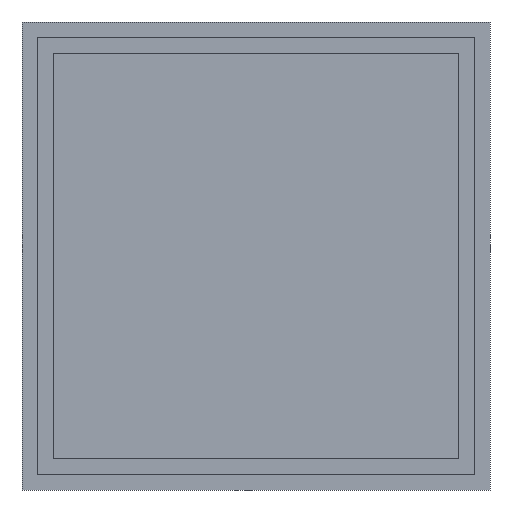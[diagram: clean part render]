
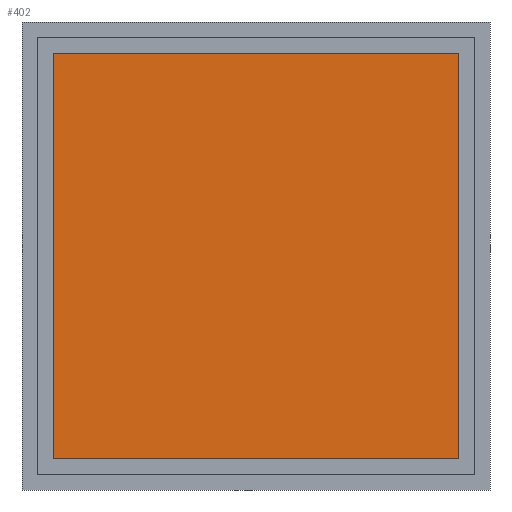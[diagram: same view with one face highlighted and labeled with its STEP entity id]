
A CAD part, front view. The second image highlights one B-rep face of the part: STEP entity #402.
In plain terms, the highlighted planar face has unit normal (0, -1, 0).
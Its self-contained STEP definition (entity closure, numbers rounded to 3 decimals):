
#194 = VERTEX_POINT( '', #516 );
#276 = EDGE_CURVE( '', #302, #328, #607, .T. );
#302 = VERTEX_POINT( '', #638 );
#324 = EDGE_CURVE( '', #474, #194, #664, .T. );
#328 = VERTEX_POINT( '', #668 );
#386 = EDGE_CURVE( '', #194, #302, #730, .T. );
#394 = EDGE_CURVE( '', #328, #474, #739, .T. );
#402 = ADVANCED_FACE( '', ( #748 ), #749, .T. );
#474 = VERTEX_POINT( '', #829 );
#516 = CARTESIAN_POINT( '', ( -18., -30., -26. ) );
#607 = LINE( '', #999, #1000 );
#638 = CARTESIAN_POINT( '', ( 34., -30., -26. ) );
#664 = LINE( '', #1072, #1073 );
#668 = CARTESIAN_POINT( '', ( 34., -30., 26. ) );
#730 = LINE( '', #1168, #1169 );
#739 = LINE( '', #1181, #1182 );
#748 = FACE_OUTER_BOUND( '', #1193, .T. );
#749 = PLANE( '', #1194 );
#829 = CARTESIAN_POINT( '', ( -18., -30., 26. ) );
#999 = CARTESIAN_POINT( '', ( 34., -30., 30. ) );
#1000 = VECTOR( '', #1437, 1. );
#1072 = CARTESIAN_POINT( '', ( -18., -30., 30. ) );
#1073 = VECTOR( '', #1510, 1. );
#1168 = CARTESIAN_POINT( '', ( 8., -30., -26. ) );
#1169 = VECTOR( '', #1565, 1. );
#1181 = CARTESIAN_POINT( '', ( 8., -30., 26. ) );
#1182 = VECTOR( '', #1575, 1. );
#1193 = EDGE_LOOP( '', ( #1586, #1587, #1588, #1589 ) );
#1194 = AXIS2_PLACEMENT_3D( '', #1590, #1591, #1592 );
#1437 = DIRECTION( '', ( 0., 0., 1. ) );
#1510 = DIRECTION( '', ( 0., 0., -1. ) );
#1565 = DIRECTION( '', ( 1., 0., 0. ) );
#1575 = DIRECTION( '', ( -1., 0., 0. ) );
#1586 = ORIENTED_EDGE( '', *, *, #386, .T. );
#1587 = ORIENTED_EDGE( '', *, *, #276, .T. );
#1588 = ORIENTED_EDGE( '', *, *, #394, .T. );
#1589 = ORIENTED_EDGE( '', *, *, #324, .T. );
#1590 = CARTESIAN_POINT( '', ( -22., -30., 30. ) );
#1591 = DIRECTION( '', ( 0., -1., 0. ) );
#1592 = DIRECTION( '', ( -1., 0., 0. ) );
